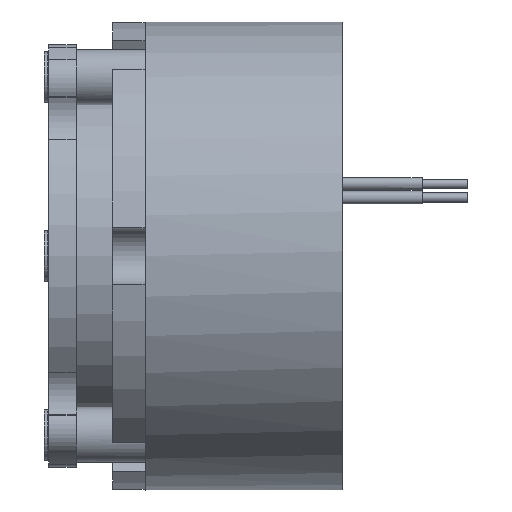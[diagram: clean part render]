
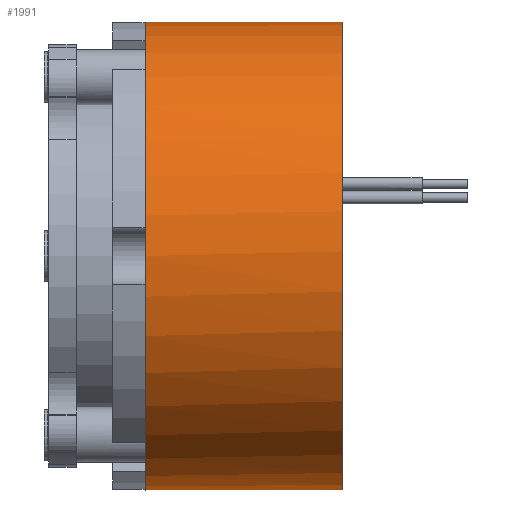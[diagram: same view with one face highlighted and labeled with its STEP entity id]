
A CAD part, front view. The second image highlights one B-rep face of the part: STEP entity #1991.
In plain terms, the highlighted cylindrical face has radius 25.5 mm (diameter 51 mm), a full revolution.
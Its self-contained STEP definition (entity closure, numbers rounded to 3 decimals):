
#101 = CIRCLE ( 'NONE', #1159, 25.5 ) ;
#177 = FACE_OUTER_BOUND ( 'NONE', #2203, .T. ) ;
#201 = VERTEX_POINT ( 'NONE', #2452 ) ;
#249 = DIRECTION ( 'NONE',  ( 0., 0., 1. ) ) ;
#300 = EDGE_CURVE ( 'NONE', #654, #201, #2241, .T. ) ;
#343 = CARTESIAN_POINT ( 'NONE',  ( 21.4, 0., 0. ) ) ;
#402 = AXIS2_PLACEMENT_3D ( 'NONE', #1528, #1003, #249 ) ;
#458 = DIRECTION ( 'NONE',  ( 1., 0., 0. ) ) ;
#598 = FACE_OUTER_BOUND ( 'NONE', #3050, .T. ) ;
#654 = VERTEX_POINT ( 'NONE', #1282 ) ;
#766 = EDGE_CURVE ( 'NONE', #201, #1320, #101, .T. ) ;
#826 = CARTESIAN_POINT ( 'NONE',  ( 0., 24.466, 7.188 ) ) ;
#859 = AXIS2_PLACEMENT_3D ( 'NONE', #1195, #458, #1153 ) ;
#973 = VECTOR ( 'NONE', #1409, 1000. ) ;
#1001 = CIRCLE ( 'NONE', #859, 25.5 ) ;
#1003 = DIRECTION ( 'NONE',  ( -1., 0., 0. ) ) ;
#1021 = LINE ( 'NONE', #1230, #973 ) ;
#1153 = DIRECTION ( 'NONE',  ( 0., 0., -1. ) ) ;
#1159 = AXIS2_PLACEMENT_3D ( 'NONE', #343, #2805, #2784 ) ;
#1176 = EDGE_CURVE ( 'NONE', #1956, #1956, #2868, .T. ) ;
#1195 = CARTESIAN_POINT ( 'NONE',  ( 15.1, 0., 0. ) ) ;
#1230 = CARTESIAN_POINT ( 'NONE',  ( 0., 22.593, 11.824 ) ) ;
#1282 = CARTESIAN_POINT ( 'NONE',  ( 15.1, 24.466, 7.188 ) ) ;
#1320 = VERTEX_POINT ( 'NONE', #1341 ) ;
#1341 = CARTESIAN_POINT ( 'NONE',  ( 21.4, 22.593, 11.824 ) ) ;
#1343 = CYLINDRICAL_SURFACE ( 'NONE', #402, 25.5 ) ;
#1409 = DIRECTION ( 'NONE',  ( -1., 0., 0. ) ) ;
#1505 = CARTESIAN_POINT ( 'NONE',  ( 15.1, 22.593, 11.824 ) ) ;
#1528 = CARTESIAN_POINT ( 'NONE',  ( 0., 0., 0. ) ) ;
#1619 = VECTOR ( 'NONE', #2547, 1000. ) ;
#1737 = DIRECTION ( 'NONE',  ( 0., 0., 1. ) ) ;
#1839 = CARTESIAN_POINT ( 'NONE',  ( 0., 0., 25.5 ) ) ;
#1915 = ORIENTED_EDGE ( 'NONE', *, *, #300, .T. ) ;
#1945 = ORIENTED_EDGE ( 'NONE', *, *, #1176, .F. ) ;
#1956 = VERTEX_POINT ( 'NONE', #1839 ) ;
#1959 = EDGE_CURVE ( 'NONE', #1320, #3074, #1021, .T. ) ;
#1991 = ADVANCED_FACE ( 'NONE', ( #177, #598 ), #1343, .T. ) ;
#2150 = CARTESIAN_POINT ( 'NONE',  ( 0., 0., 0. ) ) ;
#2176 = AXIS2_PLACEMENT_3D ( 'NONE', #2150, #2941, #1737 ) ;
#2203 = EDGE_LOOP ( 'NONE', ( #2894, #2778, #3163, #1915 ) ) ;
#2241 = LINE ( 'NONE', #826, #1619 ) ;
#2452 = CARTESIAN_POINT ( 'NONE',  ( 21.4, 24.466, 7.188 ) ) ;
#2547 = DIRECTION ( 'NONE',  ( 1., 0., 0. ) ) ;
#2778 = ORIENTED_EDGE ( 'NONE', *, *, #1959, .T. ) ;
#2784 = DIRECTION ( 'NONE',  ( 0., 0., 1. ) ) ;
#2805 = DIRECTION ( 'NONE',  ( -1., 0., 0. ) ) ;
#2834 = EDGE_CURVE ( 'NONE', #654, #3074, #1001, .T. ) ;
#2868 = CIRCLE ( 'NONE', #2176, 25.5 ) ;
#2894 = ORIENTED_EDGE ( 'NONE', *, *, #766, .T. ) ;
#2941 = DIRECTION ( 'NONE',  ( -1., 0., 0. ) ) ;
#3050 = EDGE_LOOP ( 'NONE', ( #1945 ) ) ;
#3074 = VERTEX_POINT ( 'NONE', #1505 ) ;
#3163 = ORIENTED_EDGE ( 'NONE', *, *, #2834, .F. ) ;
